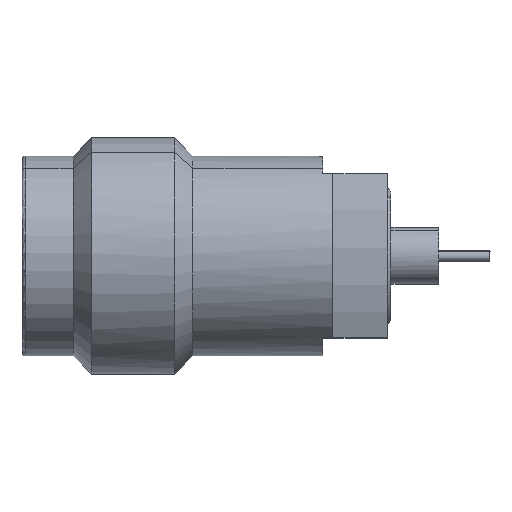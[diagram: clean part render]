
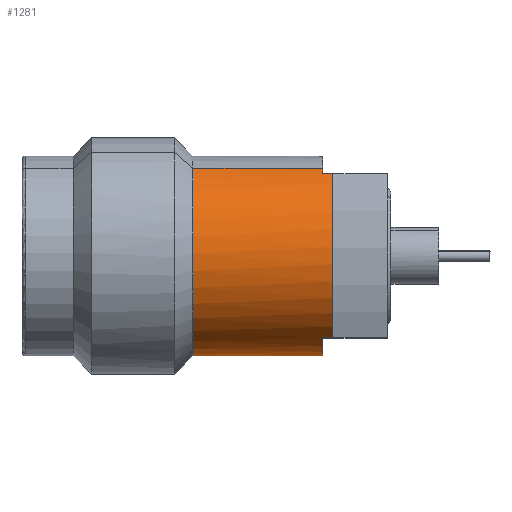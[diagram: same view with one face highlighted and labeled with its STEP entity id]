
A CAD part, top view. The second image highlights one B-rep face of the part: STEP entity #1281.
In plain terms, the highlighted cylindrical face has radius 2.925 mm (diameter 5.85 mm), a partial arc.
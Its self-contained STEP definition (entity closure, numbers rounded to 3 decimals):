
#1005=CARTESIAN_POINT('Axis2P3D Location',(9.849,0.,0.)) ;
#1139=CARTESIAN_POINT('Vertex',(5.,2.567,1.402)) ;
#1146=CARTESIAN_POINT('Vertex',(5.,-2.567,-1.402)) ;
#1166=CARTESIAN_POINT('Axis2P3D Location',(5.,0.,0.)) ;
#1198=CARTESIAN_POINT('Vertex',(8.8,-2.567,-1.402)) ;
#1201=CARTESIAN_POINT('Line Origine',(9.849,-2.567,-1.402)) ;
#1206=CARTESIAN_POINT('Line Origine',(9.849,2.567,1.402)) ;
#1210=CARTESIAN_POINT('Vertex',(8.8,2.567,1.402)) ;
#1238=CARTESIAN_POINT('Axis2P3D Location',(9.1,0.,0.)) ;
#1242=CARTESIAN_POINT('Vertex',(9.1,2.4,1.672)) ;
#1244=CARTESIAN_POINT('Vertex',(9.1,-2.4,1.672)) ;
#1247=CARTESIAN_POINT('Line Origine',(9.849,2.4,1.672)) ;
#1251=CARTESIAN_POINT('Vertex',(8.8,2.4,1.672)) ;
#1254=CARTESIAN_POINT('Axis2P3D Location',(8.8,0.,0.)) ;
#1259=CARTESIAN_POINT('Axis2P3D Location',(8.8,0.,0.)) ;
#1263=CARTESIAN_POINT('Vertex',(8.8,-2.4,1.672)) ;
#1266=CARTESIAN_POINT('Line Origine',(9.849,-2.4,1.672)) ;
#1006=DIRECTION('Axis2P3D Direction',(1.,0.,0.)) ;
#1007=DIRECTION('Axis2P3D XDirection',(0.,0.878,0.479)) ;
#1167=DIRECTION('Axis2P3D Direction',(-1.,0.,0.)) ;
#1202=DIRECTION('Vector Direction',(1.,0.,0.)) ;
#1207=DIRECTION('Vector Direction',(1.,0.,0.)) ;
#1239=DIRECTION('Axis2P3D Direction',(1.,0.,0.)) ;
#1248=DIRECTION('Vector Direction',(1.,0.,0.)) ;
#1255=DIRECTION('Axis2P3D Direction',(1.,0.,0.)) ;
#1260=DIRECTION('Axis2P3D Direction',(1.,0.,0.)) ;
#1267=DIRECTION('Vector Direction',(1.,0.,0.)) ;
#1008=AXIS2_PLACEMENT_3D('Cylinder Axis2P3D',#1005,#1006,#1007) ;
#1168=AXIS2_PLACEMENT_3D('Circle Axis2P3D',#1166,#1167,$) ;
#1240=AXIS2_PLACEMENT_3D('Circle Axis2P3D',#1238,#1239,$) ;
#1256=AXIS2_PLACEMENT_3D('Circle Axis2P3D',#1254,#1255,$) ;
#1261=AXIS2_PLACEMENT_3D('Circle Axis2P3D',#1259,#1260,$) ;
#1272=ORIENTED_EDGE('',*,*,#1246,.F.) ;
#1273=ORIENTED_EDGE('',*,*,#1253,.T.) ;
#1274=ORIENTED_EDGE('',*,*,#1258,.F.) ;
#1275=ORIENTED_EDGE('',*,*,#1212,.F.) ;
#1276=ORIENTED_EDGE('',*,*,#1170,.T.) ;
#1277=ORIENTED_EDGE('',*,*,#1205,.T.) ;
#1278=ORIENTED_EDGE('',*,*,#1265,.F.) ;
#1279=ORIENTED_EDGE('',*,*,#1270,.F.) ;
#1203=VECTOR('Line Direction',#1202,1.) ;
#1208=VECTOR('Line Direction',#1207,1.) ;
#1249=VECTOR('Line Direction',#1248,1.) ;
#1268=VECTOR('Line Direction',#1267,1.) ;
#1281=ADVANCED_FACE('',(#1280),#1009,.T.) ;
#1169=CIRCLE('generated circle',#1168,2.925) ;
#1241=CIRCLE('generated circle',#1240,2.925) ;
#1257=CIRCLE('generated circle',#1256,2.925) ;
#1262=CIRCLE('generated circle',#1261,2.925) ;
#1009=CYLINDRICAL_SURFACE('generated cylinder',#1008,2.925) ;
#1170=EDGE_CURVE('',#1140,#1147,#1169,.F.) ;
#1205=EDGE_CURVE('',#1147,#1199,#1204,.T.) ;
#1212=EDGE_CURVE('',#1140,#1211,#1209,.T.) ;
#1246=EDGE_CURVE('',#1243,#1245,#1241,.T.) ;
#1253=EDGE_CURVE('',#1243,#1252,#1250,.F.) ;
#1258=EDGE_CURVE('',#1211,#1252,#1257,.T.) ;
#1265=EDGE_CURVE('',#1264,#1199,#1262,.T.) ;
#1270=EDGE_CURVE('',#1245,#1264,#1269,.F.) ;
#1271=EDGE_LOOP('',(#1272,#1273,#1274,#1275,#1276,#1277,#1278,#1279)) ;
#1280=FACE_OUTER_BOUND('',#1271,.T.) ;
#1204=LINE('Line',#1201,#1203) ;
#1209=LINE('Line',#1206,#1208) ;
#1250=LINE('Line',#1247,#1249) ;
#1269=LINE('Line',#1266,#1268) ;
#1140=VERTEX_POINT('',#1139) ;
#1147=VERTEX_POINT('',#1146) ;
#1199=VERTEX_POINT('',#1198) ;
#1211=VERTEX_POINT('',#1210) ;
#1243=VERTEX_POINT('',#1242) ;
#1245=VERTEX_POINT('',#1244) ;
#1252=VERTEX_POINT('',#1251) ;
#1264=VERTEX_POINT('',#1263) ;
